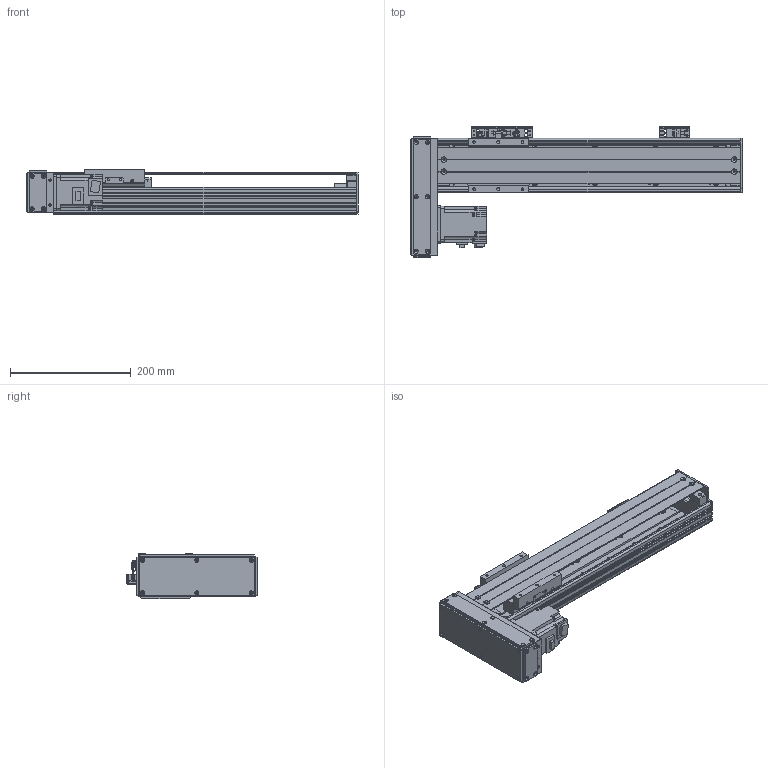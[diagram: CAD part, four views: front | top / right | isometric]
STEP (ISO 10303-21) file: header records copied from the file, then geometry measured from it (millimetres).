
FILE_DESCRIPTION(/* description */ (''),/* implementation_level */ '2;1');
FILE_NAME(/* name */ '\\192.168.0.160\disk1\HAN SHIN Master\B-설계부문\C-표준\B-2024년\BC02-표준도면\+로봇 개선표준도면\표준 승인도 작업 폴더\3D\HG90\HG90병렬\우병렬\HG90-R20-N1B-0300-L10.stp',/* time_stamp */ '2024-02-19T14:07:12+09:00',/* author */ ('User'),/* organization */ (''),/* preprocessor_version */ 'ST-DEVELOPER v18.1',/* originating_system */ 'Autodesk Inventor 2022',/* authorisation */ '');
FILE_SCHEMA (('AUTOMOTIVE_DESIGN { 1 0 10303 214 3 1 1 }'));
Length unit declared in the file: millimetre
Products named in the file (24): HG90-L20-N1B-0500-R10; HR90 BASE 100W 1BLOCK; HR90 FRONT BLOCK; HR90 REAR BLOCK TENSION; HR90 REAR COVER-TENSION; HG4UPCOV002; HG90STOPPER - 27L; HG90STOPPER - 20L; MOTOR PLATE-200W(MITSUBISHI); hg-kr23_; 화살표; HR65-LR-BELT COVER; HC90-BELT COVER-COVER3; M-5HL-4; HR90 TABLE; LMKE1520 NUT; HR75-D-BELT COVER-COVER; HC90-BELT COVER-COVER2; HC90-LR-MOTOR PLATE(200W)-사출_MIR; HR120 SENSOR DOG; SENSOR BRK(EE-SX674A); EE_SX674A; hsr_ftht_A-M6F_grease_nipple_joint; NIPPLE CAP(신규)
Assembly tree (31 placements, depth 2):
  HG90-L20-N1B-0500-R10
    HR90 BASE 100W 1BLOCK
    HR90 FRONT BLOCK
    HR90 REAR BLOCK TENSION
    HR90 REAR COVER-TENSION
    HG4UPCOV002
    HG90STOPPER - 27L
    HG90STOPPER - 20L
    MOTOR PLATE-200W(MITSUBISHI)
    hg-kr23_
    화살표  x2
    HC90-BELT COVER-COVER3  x2
    HR65-LR-BELT COVER
    M-5HL-4
    HR90 TABLE
    LMKE1520 NUT
    HR75-D-BELT COVER-COVER
    HC90-BELT COVER-COVER2
    HC90-LR-MOTOR PLATE(200W)-사출_MIR
    EE_SX674A  x3
    SENSOR BRK(EE-SX674A)  x3
    HR120 SENSOR DOG
    hsr_ftht_A-M6F_grease_nipple_joint  x2
    NIPPLE CAP(신규)  x2
Bounding box: 549 x 215 x 75 mm (x, y, z)
Volume: 1453122.2 mm3; surface area: 585319.2 mm2
Topology: 31 solids, 31 shells, 1564 faces, 4147 edges, 2715 vertices
Faces by surface type: plane 755, cylinder 627, cone 138, sphere 24, torus 12, bspline 8
Full cylindrical faces by diameter (mm): 1.8 x1, 2 x4, 2.459 x38, 2.5 x2, 3 x8, 3.242 x25, 3.4 x20, 3.5 x6, 4 x4, 4.134 x48, 4.5 x16, 4.917 x5, 5 x29, 5.5 x28, 5.6 x10, 5.8 x4, 5.9 x8, 6 x6, 6.5 x5, 7 x1, 8 x1, 9.5 x24, 14 x1, 15 x3, 17 x1, 20 x1, 22 x1, 25 x1, 28 x1, 32 x2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
Entity records: 42446 total; most frequent: CARTESIAN_POINT 8072, DIRECTION 7137, ORIENTED_EDGE 6670, EDGE_CURVE 3335, AXIS2_PLACEMENT_3D 2597, VERTEX_POINT 2216, LINE 1943, VECTOR 1943
